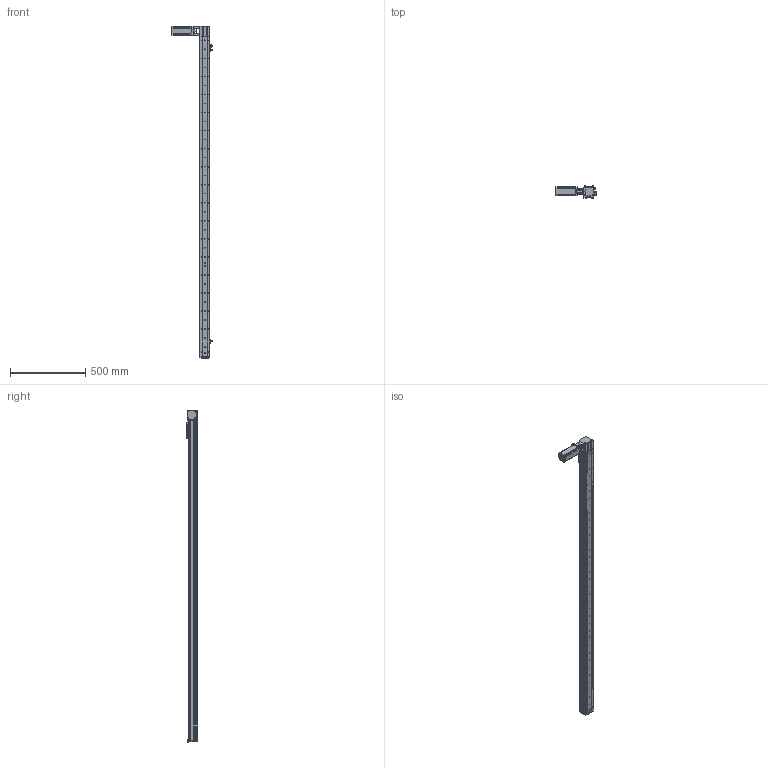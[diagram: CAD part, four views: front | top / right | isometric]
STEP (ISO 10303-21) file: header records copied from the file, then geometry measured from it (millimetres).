
FILE_DESCRIPTION (( 'STEP AP214' ), '1' );
FILE_NAME ('KSD68BS-S1950-MLT-CR.STEP', '2019-11-08T05:43:10', ( '微软用户' ), ( '微软中国' ), 'SwSTEP 2.0', 'SolidWorks 2014', '' );
FILE_SCHEMA (( 'AUTOMOTIVE_DESIGN' ));
Length unit declared in the file: millimetre
Products named in the file (13): 100遵鎮湛假蚾啣1; KSD68BS 1950行程盖板全封闭; 68遵裔啣揤啣1; 68宽单导轨全封闭丝杆传动安装板1防护罩; KSD68BS 1950行程侧板全封闭; 68宽单导轨全封闭同步带端板; 68单导轨全封闭同步带电机座右; 68单导轨全封闭同步带安装板; 感应片68宽全封闭; U倰嫖萇EEㄜSX672; 台达ECMA－C20604AS伺服电机（400W); KSD68BS 1950行程底板全封闭; KSD68BS-S1950-MLT-CR
Assembly tree (16 placements, depth 2):
  KSD68BS-S1950-MLT-CR
    KSD68BS 1950行程底板全封闭
    台达ECMA－C20604AS伺服电机（400W)
    U倰嫖萇EEㄜSX672  x3
    感应片68宽全封闭
    68单导轨全封闭同步带安装板
    68单导轨全封闭同步带电机座右
    68宽单导轨全封闭同步带端板
    KSD68BS 1950行程侧板全封闭  x2
    68宽单导轨全封闭丝杆传动安装板1防护罩
    68遵裔啣揤啣1  x2
    KSD68BS 1950行程盖板全封闭
    100遵鎮湛假蚾啣1
Bounding box: 266.4 x 77 x 2208.1 mm (x, y, z)
Volume: 3766097.8 mm3; surface area: 1537316.8 mm2
Topology: 17 solids, 17 shells, 1596 faces, 4632 edges, 2941 vertices
Faces by surface type: cylinder 792, plane 604, cone 200
Entity records: 52821 total; most frequent: CARTESIAN_POINT 9193, DIRECTION 7780, ORIENTED_EDGE 7444, EDGE_CURVE 3722, AXIS2_PLACEMENT_3D 2854, VERTEX_POINT 2439, LINE 2072, VECTOR 2072
